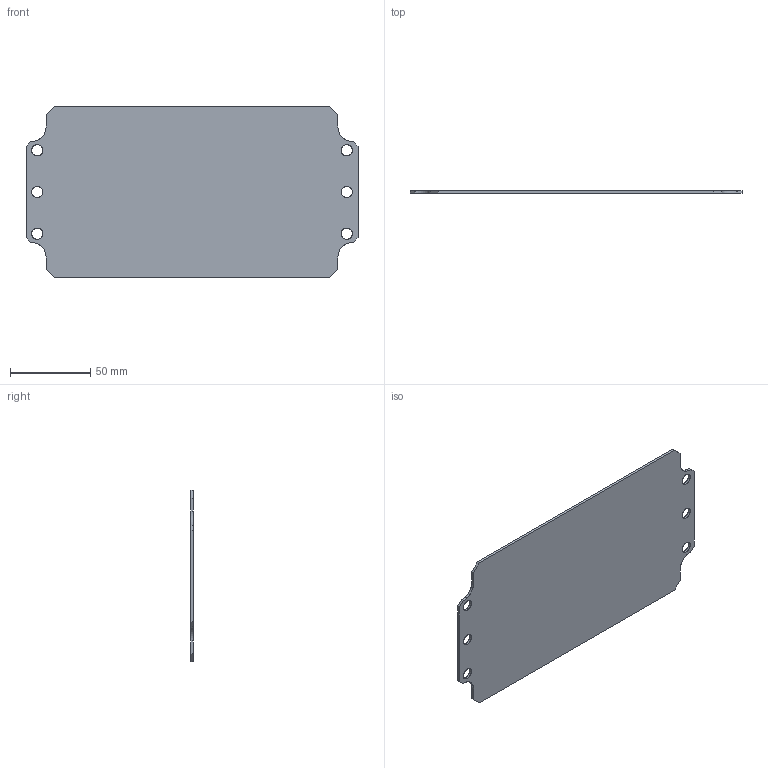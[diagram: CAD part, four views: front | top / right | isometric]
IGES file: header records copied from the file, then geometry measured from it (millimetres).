
Start section: SolidWorks IGES file using analytic representation for surfaces
Global section: file name: G:\3DRAW\EURONORD\3DCAM\Aluminum\Asennuslevyt\AM 1222.IGS; native system: SolidWorks 2009; preprocessor: SolidWorks 2009; author: KennethW; date: 100216.145138; units: millimetre
Bounding box: 207 x 1.5 x 107 mm (x, y, z)
Surface area: 42755.3 mm2 (no closed solid volume)
Topology: 0 solids, 0 shells, 150 faces, 1922 edges, 1922 vertices
Faces by surface type: bspline 78, revolution 72
